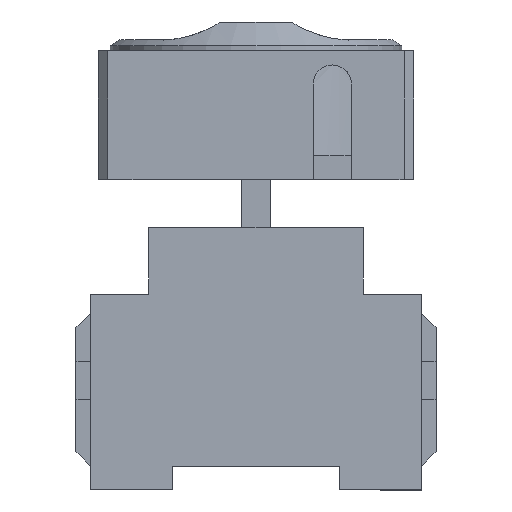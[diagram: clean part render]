
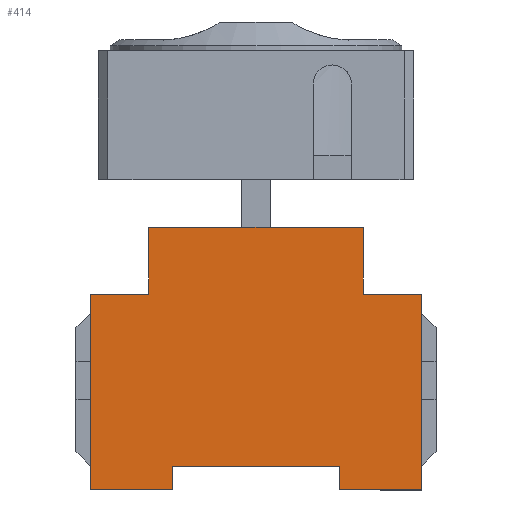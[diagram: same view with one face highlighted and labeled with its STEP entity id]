
A CAD part, left-side view. The second image highlights one B-rep face of the part: STEP entity #414.
In plain terms, the highlighted planar face has unit normal (-1, 0, 0).
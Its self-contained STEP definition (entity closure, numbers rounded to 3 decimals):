
#414=ADVANCED_FACE('',(#953),#954,.T.);
#953=FACE_OUTER_BOUND('',#1415,.T.);
#954=PLANE('',#1416);
#1415=EDGE_LOOP('',(#3001,#3002,#3003,#3004,#3005,#3006,#3007,#3008,#3009,#3010,#3011,#3012));
#1416=AXIS2_PLACEMENT_3D('',#3013,#3014,#3015);
#3001=ORIENTED_EDGE('',*,*,#3572,.F.);
#3002=ORIENTED_EDGE('',*,*,#3598,.F.);
#3003=ORIENTED_EDGE('',*,*,#3488,.F.);
#3004=ORIENTED_EDGE('',*,*,#3596,.F.);
#3005=ORIENTED_EDGE('',*,*,#3593,.F.);
#3006=ORIENTED_EDGE('',*,*,#3590,.F.);
#3007=ORIENTED_EDGE('',*,*,#3587,.F.);
#3008=ORIENTED_EDGE('',*,*,#3584,.F.);
#3009=ORIENTED_EDGE('',*,*,#3476,.F.);
#3010=ORIENTED_EDGE('',*,*,#3582,.F.);
#3011=ORIENTED_EDGE('',*,*,#3579,.F.);
#3012=ORIENTED_EDGE('',*,*,#3576,.F.);
#3013=CARTESIAN_POINT('',(-22.0,0.,20.89));
#3014=DIRECTION('',(-1.0,0.0,0.));
#3015=DIRECTION('',(0.,0.0,1.0));
#3476=EDGE_CURVE('',#4276,#4277,#4278,.T.);
#3488=EDGE_CURVE('',#4300,#4301,#4302,.T.);
#3572=EDGE_CURVE('',#4436,#4437,#4438,.T.);
#3576=EDGE_CURVE('',#4437,#4444,#4445,.T.);
#3579=EDGE_CURVE('',#4444,#4449,#4450,.T.);
#3582=EDGE_CURVE('',#4449,#4276,#4454,.T.);
#3584=EDGE_CURVE('',#4277,#4456,#4457,.T.);
#3587=EDGE_CURVE('',#4456,#4461,#4462,.T.);
#3590=EDGE_CURVE('',#4461,#4466,#4467,.T.);
#3593=EDGE_CURVE('',#4466,#4471,#4472,.T.);
#3596=EDGE_CURVE('',#4471,#4300,#4476,.T.);
#3598=EDGE_CURVE('',#4301,#4436,#4478,.T.);
#4276=VERTEX_POINT('',#5988);
#4277=VERTEX_POINT('',#5989);
#4278=LINE('',#5990,#5991);
#4300=VERTEX_POINT('',#6024);
#4301=VERTEX_POINT('',#6025);
#4302=LINE('',#6026,#6027);
#4436=VERTEX_POINT('',#6244);
#4437=VERTEX_POINT('',#6245);
#4438=LINE('',#6246,#6247);
#4444=VERTEX_POINT('',#6256);
#4445=LINE('',#6257,#6258);
#4449=VERTEX_POINT('',#6264);
#4450=LINE('',#6265,#6266);
#4454=LINE('',#6272,#6273);
#4456=VERTEX_POINT('',#6276);
#4457=LINE('',#6277,#6278);
#4461=VERTEX_POINT('',#6284);
#4462=LINE('',#6285,#6286);
#4466=VERTEX_POINT('',#6292);
#4467=LINE('',#6293,#6294);
#4471=VERTEX_POINT('',#6300);
#4472=LINE('',#6301,#6302);
#4476=LINE('',#6308,#6309);
#4478=LINE('',#6312,#6313);
#5988=CARTESIAN_POINT('',(-22.0,34.7,-5.0));
#5989=CARTESIAN_POINT('',(-22.0,34.7,36.0));
#5990=CARTESIAN_POINT('',(-22.0,34.7,-5.0));
#5991=VECTOR('',#6768,1.0);
#6024=CARTESIAN_POINT('',(-22.0,-34.7,36.0));
#6025=CARTESIAN_POINT('',(-22.0,-34.7,-5.0));
#6026=CARTESIAN_POINT('',(-22.0,-34.7,-5.0));
#6027=VECTOR('',#6780,1.0);
#6244=CARTESIAN_POINT('',(-22.0,-17.5,-5.0));
#6245=CARTESIAN_POINT('',(-22.0,-17.5,0.));
#6246=CARTESIAN_POINT('',(-22.0,-17.5,-5.0));
#6247=VECTOR('',#6864,1.0);
#6256=CARTESIAN_POINT('',(-22.0,17.5,0.));
#6257=CARTESIAN_POINT('',(-22.0,-17.5,0.));
#6258=VECTOR('',#6868,1.0);
#6264=CARTESIAN_POINT('',(-22.0,17.5,-5.0));
#6265=CARTESIAN_POINT('',(-22.0,17.5,-5.0));
#6266=VECTOR('',#6871,1.0);
#6272=CARTESIAN_POINT('',(-22.0,17.5,-5.0));
#6273=VECTOR('',#6874,1.0);
#6276=CARTESIAN_POINT('',(-22.0,22.5,36.0));
#6277=CARTESIAN_POINT('',(-22.0,22.5,36.0));
#6278=VECTOR('',#6876,1.0);
#6284=CARTESIAN_POINT('',(-22.0,22.5,50.0));
#6285=CARTESIAN_POINT('',(-22.0,22.5,36.0));
#6286=VECTOR('',#6879,1.0);
#6292=CARTESIAN_POINT('',(-22.0,-22.5,50.0));
#6293=CARTESIAN_POINT('',(-22.0,-22.5,50.0));
#6294=VECTOR('',#6882,1.0);
#6300=CARTESIAN_POINT('',(-22.0,-22.5,36.0));
#6301=CARTESIAN_POINT('',(-22.0,-22.5,36.0));
#6302=VECTOR('',#6885,1.0);
#6308=CARTESIAN_POINT('',(-22.0,-34.7,36.0));
#6309=VECTOR('',#6888,1.0);
#6312=CARTESIAN_POINT('',(-22.0,-34.7,-5.0));
#6313=VECTOR('',#6890,1.0);
#6768=DIRECTION('',(0.,0.0,1.0));
#6780=DIRECTION('',(0.,0.,-1.0));
#6864=DIRECTION('',(0.,0.0,1.0));
#6868=DIRECTION('',(0.,1.0,0.));
#6871=DIRECTION('',(0.,-0.0,-1.0));
#6874=DIRECTION('',(0.0,1.0,0.0));
#6876=DIRECTION('',(0.0,-1.0,-0.0));
#6879=DIRECTION('',(0.,0.,1.0));
#6882=DIRECTION('',(0.0,-1.0,-0.0));
#6885=DIRECTION('',(0.,-0.0,-1.0));
#6888=DIRECTION('',(0.0,-1.0,-0.0));
#6890=DIRECTION('',(0.,1.0,0.));
